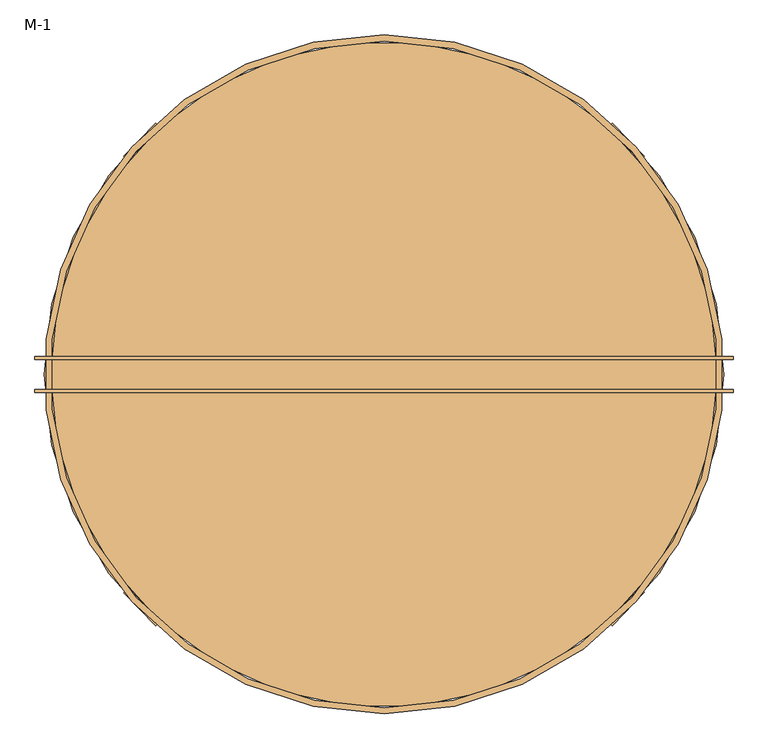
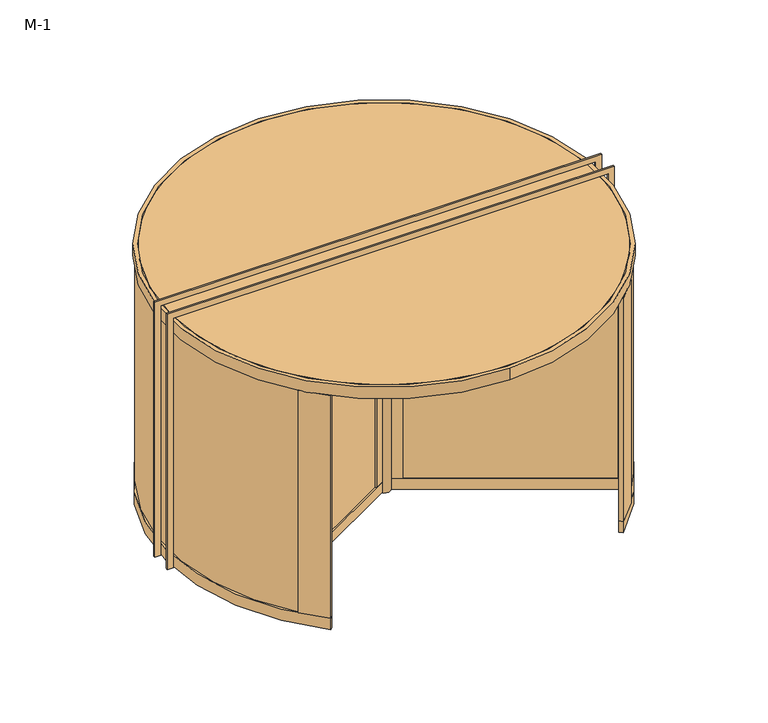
"""IFC4 building model written with IfcOpenShell, lengths in millimetres: door geometry, 旋转门 3 : M-1."""

from ifc_helpers import new_model, si_unit, point, frame, frame_2d, origin, origin_with_axes, origin_2d, place, context, project, spatial, polyline, circle_curve, trimmed, segment, composite_curve, outline, extrude, source, transform, mapped, element, save


def m_1_02a121c7(model_context):
    return source(origin(), model_context, "Body", "SweptSolid", [
        extrude(outline(polyline([(3300.0, -2720.0), (3300.0, 2720.0), (0.0, 2720.0), (0.0, 2795.0), (3375.0, 2795.0), (3375.0, -2795.0), (0.0, -2795.0), (0.0, -2720.0), (3300.0, -2720.0)])), frame((0.0, -145.0, 0.0), z_axis=(0.0, 1.0, 0.0), x_axis=(0.0, 0.0, 1.0)), (0.0, 0.0, 1.0), 25.0),
        extrude(outline(polyline([(3300.0, -2720.0), (3300.0, 2720.0), (0.0, 2720.0), (0.0, 2795.0), (3375.0, 2795.0), (3375.0, -2795.0), (0.0, -2795.0), (0.0, -2720.0), (3300.0, -2720.0)])), frame((0.0, 120.0, 0.0), z_axis=(0.0, 1.0, 0.0), x_axis=(0.0, 0.0, 1.0)), (0.0, 0.0, 1.0), 25.0),
        extrude(outline(composite_curve([segment(trimmed(circle_curve(origin_2d(), 2720.0000021), [point((0.0, -2720.0000021))], [point((0.0, 2720.0000021))], False, "CARTESIAN"), True, "CONTINUOUS"), segment(trimmed(circle_curve(origin_2d(), 2720.0000021), [point((0.0, 2720.0000021))], [point((0.0, -2720.0000021))], False, "CARTESIAN"), True, "CONTINUOUS")], self_intersect=False), holes=[composite_curve([segment(trimmed(circle_curve(origin_2d(), 2669.2000021), [point((0.0, 2669.2000021))], [point((0.0, -2669.2000021))], True, "CARTESIAN"), True, "CONTINUOUS"), segment(trimmed(circle_curve(origin_2d(), 2669.2000021), [point((0.0, -2669.2000021))], [point((0.0, 2669.2000021))], True, "CARTESIAN"), True, "CONTINUOUS")], self_intersect=False)]), frame((0.0, 0.0, 3093.2), z_axis=(0.0, 0.0, 1.0), x_axis=(1.0, 0.0, 0.0)), (0.0, 0.0, 1.0), 150.0),
        extrude(outline(polyline([(174.0798334, -107.8673079), (180.4298334, -96.8687853), (2198.1900323, -1261.8231794), (2191.8400323, -1272.821702), (174.0798334, -107.8673079)])), frame((0.0, 0.0, 150.0), z_axis=(0.0, 0.0, 1.0), x_axis=(1.0, 0.0, 0.0)), (0.0, 0.0, 1.0), 2943.2),
        extrude(outline(polyline([(-6.3759122, 204.691212), (-6.3759122, 2534.6), (6.3240878, 2534.6), (6.3240878, 204.691212), (-6.3759122, 204.691212)])), frame((0.0, 0.0, 150.0), z_axis=(0.0, 0.0, 1.0), x_axis=(1.0, 0.0, 0.0)), (0.0, 0.0, 1.0), 2943.2),
        extrude(outline(polyline([(-174.0798334, -107.8673079), (-2191.8400323, -1272.821702), (-2198.1900323, -1261.8231793), (-180.4298334, -96.8687853), (-174.0798334, -107.8673079)])), frame((0.0, 0.0, 150.0), z_axis=(0.0, 0.0, 1.0), x_axis=(1.0, 0.0, 0.0)), (0.0, 0.0, 1.0), 2943.2),
        extrude(outline(polyline([(2182.5279884, -1288.9506351), (2207.5279884, -1245.6493649), (2311.4510369, -1305.6493649), (2286.4510369, -1348.9506351), (2182.5279884, -1288.9506351)])), frame((0.0, 0.0, 150.0), z_axis=(0.0, 0.0, 1.0), x_axis=(1.0, 0.0, 0.0)), (0.0, 0.0, 1.0), 2943.2),
        extrude(outline(polyline([(58.7955281, -62.2855931), (83.7543721, -19.0556072), (189.9563281, -80.3713351), (164.9974841, -123.601321), (58.7955281, -62.2855931)])), frame((0.0, 0.0, 150.0), z_axis=(0.0, 0.0, 1.0), x_axis=(1.0, 0.0, 0.0)), (0.0, 0.0, 1.0), 2943.2),
        extrude(outline(polyline([(25.0, 2534.6), (-25.0, 2534.6), (-25.0, 2654.6), (25.0, 2654.6), (25.0, 2534.6)])), frame((0.0, 0.0, 150.0), z_axis=(0.0, 0.0, 1.0), x_axis=(1.0, 0.0, 0.0)), (0.0, 0.0, 1.0), 2943.2),
        extrude(outline(polyline([(24.5431418, 82.0612175), (-25.3745461, 82.0612175), (-25.3745461, 204.6926733), (24.5431418, 204.6926733), (24.5431418, 82.0612175)])), frame((0.0, 0.0, 150.0), z_axis=(0.0, 0.0, 1.0), x_axis=(1.0, 0.0, 0.0)), (0.0, 0.0, 1.0), 2943.2),
        extrude(outline(polyline([(-2182.5279884, -1288.9506351), (-2286.4510369, -1348.9506351), (-2311.4510369, -1305.6493649), (-2207.5279884, -1245.6493649), (-2182.5279884, -1288.9506351)])), frame((0.0, 0.0, 150.0), z_axis=(0.0, 0.0, 1.0), x_axis=(1.0, 0.0, 0.0)), (0.0, 0.0, 1.0), 2943.2),
        extrude(outline(polyline([(-58.7955281, -62.2855931), (-164.9974841, -123.601321), (-189.9563281, -80.3713351), (-83.7543721, -19.0556072), (-58.7955281, -62.2855931)])), frame((0.0, 0.0, 150.0), z_axis=(0.0, 0.0, 1.0), x_axis=(1.0, 0.0, 0.0)), (0.0, 0.0, 1.0), 2943.2),
        extrude(outline(polyline([(58.56693, -62.6811463), (83.56693, -19.3798761), (2311.4510369, -1305.6493649), (2286.4510369, -1348.9506351), (58.56693, -62.6811463)])), frame((0.0, 0.0, 3093.2), z_axis=(0.0, 0.0, 1.0), x_axis=(1.0, 0.0, 0.0)), (0.0, 0.0, 1.0), 86.5),
        extrude(outline(polyline([(-25.0, 82.0610223), (-25.0, 2654.6), (25.0, 2654.6), (25.0, 82.0610223), (-25.0, 82.0610223)])), frame((0.0, 0.0, 3093.2), z_axis=(0.0, 0.0, 1.0), x_axis=(1.0, 0.0, 0.0)), (0.0, 0.0, 1.0), 86.5),
        extrude(outline(polyline([(-58.56693, -62.6811463), (-2286.4510369, -1348.9506351), (-2311.4510369, -1305.6493649), (-83.56693, -19.3798761), (-58.56693, -62.6811463)])), frame((0.0, 0.0, 3093.2), z_axis=(0.0, 0.0, 1.0), x_axis=(1.0, 0.0, 0.0)), (0.0, 0.0, 1.0), 86.5),
        extrude(outline(polyline([(58.56693, -62.6811463), (83.56693, -19.3798761), (2311.4510369, -1305.6493649), (2286.4510369, -1348.9506351), (58.56693, -62.6811463)])), frame((0.0, 0.0, 12.7), z_axis=(0.0, 0.0, 1.0), x_axis=(1.0, 0.0, 0.0)), (0.0, 0.0, 1.0), 137.3),
        extrude(outline(polyline([(-25.0, 82.0610223), (-25.0, 2654.6), (25.0, 2654.6), (25.0, 82.0610223), (-25.0, 82.0610223)])), frame((0.0, 0.0, 12.7), z_axis=(0.0, 0.0, 1.0), x_axis=(1.0, 0.0, 0.0)), (0.0, 0.0, 1.0), 137.3),
        extrude(outline(polyline([(-58.56693, -62.6811463), (-2286.4510369, -1348.9506351), (-2311.4510369, -1305.6493649), (-83.56693, -19.3798761), (-58.56693, -62.6811463)])), frame((0.0, 0.0, 12.7), z_axis=(0.0, 0.0, 1.0), x_axis=(1.0, 0.0, 0.0)), (0.0, 0.0, 1.0), 137.3),
        extrude(outline(composite_curve([segment(trimmed(circle_curve(origin_2d(), 76.3647379), [point((-76.3647379, 0.0))], [point((76.3647379, 0.0))], False, "CARTESIAN"), True, "CONTINUOUS"), segment(trimmed(circle_curve(origin_2d(), 76.3647379), [point((76.3647379, 0.0))], [point((-76.3647379, 0.0))], False, "CARTESIAN"), True, "CONTINUOUS")], self_intersect=False), holes=[composite_curve([segment(trimmed(circle_curve(origin_2d(), 65.1966682), [point((-65.1966682, 0.0))], [point((65.1966682, 0.0))], True, "CARTESIAN"), True, "CONTINUOUS"), segment(trimmed(circle_curve(origin_2d(), 65.1966682), [point((65.1966682, 0.0))], [point((-65.1966682, 0.0))], True, "CARTESIAN"), True, "CONTINUOUS")], self_intersect=False)]), origin_with_axes(), (0.0, 0.0, 1.0), 3192.4),
        extrude(outline(composite_curve([segment(polyline([(-1793.7042785, -1976.6774146), (-1827.8433749, -2014.2960549)]), True, "CONTINUOUS"), segment(trimmed(circle_curve(origin_2d(), 2720.0), [point((-1827.8433749, -2014.2960549))], [point((-2083.6408853, -1748.3822983))], False, "CARTESIAN"), True, "CONTINUOUS"), segment(polyline([(-2083.6408853, -1748.3822983), (-2044.7258276, -1715.7286878)]), True, "CONTINUOUS"), segment(trimmed(circle_curve(origin_2d(), 2669.2), [point((-2044.7258276, -1715.7286878))], [point((-1793.7042785, -1976.6774146))], True, "CARTESIAN"), True, "CONTINUOUS")], self_intersect=False)), frame((0.0, 0.0, 150.0), z_axis=(0.0, 0.0, 1.0), x_axis=(1.0, 0.0, 0.0)), (0.0, 0.0, 1.0), 2943.2),
        extrude(outline(composite_curve([segment(trimmed(circle_curve(frame_2d((0.0791205, -0.0760713)), 2669.2), [point((1793.9313547, -1976.6192157))], [point((2045.4154107, -1715.076975))], True, "CARTESIAN"), True, "CONTINUOUS"), segment(polyline([(2045.4154107, -1715.076975), (2084.2580851, -1747.6464845)]), True, "CONTINUOUS"), segment(trimmed(circle_curve(origin_2d(), 2720.0), [point((2084.2580851, -1747.6464845))], [point((1827.996861, -2014.1567655))], False, "CARTESIAN"), True, "CONTINUOUS"), segment(polyline([(1827.996861, -2014.1567655), (1793.9313547, -1976.6192157)]), True, "CONTINUOUS")], self_intersect=False)), frame((0.0, 0.0, 150.0), z_axis=(0.0, 0.0, 1.0), x_axis=(1.0, 0.0, 0.0)), (0.0, 0.0, 1.0), 2943.2),
        extrude(outline(composite_curve([segment(polyline([(1793.9313571, 1976.6192183), (1827.996861, 2014.1567655)]), True, "CONTINUOUS"), segment(trimmed(circle_curve(origin_2d(), 2720.0), [point((1827.996861, 2014.1567655))], [point((2083.6408853, 1748.3822983))], False, "CARTESIAN"), True, "CONTINUOUS"), segment(polyline([(2083.6408853, 1748.3822983), (2044.8097157, 1715.7990783)]), True, "CONTINUOUS"), segment(trimmed(circle_curve(frame_2d((0.0791073, 0.0760881)), 2669.2), [point((2044.8097157, 1715.7990783))], [point((1793.9313571, 1976.6192183))], True, "CARTESIAN"), True, "CONTINUOUS")], self_intersect=False)), frame((0.0, 0.0, 150.0), z_axis=(0.0, 0.0, 1.0), x_axis=(1.0, 0.0, 0.0)), (0.0, 0.0, 1.0), 2943.2),
        extrude(outline(composite_curve([segment(trimmed(circle_curve(origin_2d(), 2669.2), [point((-1793.7042785, 1976.6774146))], [point((-2045.3315003, 1715.0066163))], True, "CARTESIAN"), True, "CONTINUOUS"), segment(polyline([(-2045.3315003, 1715.0066163), (-2084.2580851, 1747.6464845)]), True, "CONTINUOUS"), segment(trimmed(circle_curve(origin_2d(), 2720.0), [point((-2084.2580851, 1747.6464845))], [point((-1827.8433749, 2014.2960549))], False, "CARTESIAN"), True, "CONTINUOUS"), segment(polyline([(-1827.8433749, 2014.2960549), (-1793.7042785, 1976.6774146)]), True, "CONTINUOUS")], self_intersect=False)), frame((0.0, 0.0, 150.0), z_axis=(0.0, 0.0, 1.0), x_axis=(1.0, 0.0, 0.0)), (0.0, 0.0, 1.0), 2943.2),
        extrude(outline(composite_curve([segment(trimmed(circle_curve(origin_2d(), 2669.3647675), [point((-2669.3647675, 0.0))], [point((2669.3647675, 0.0))], False, "CARTESIAN"), True, "CONTINUOUS"), segment(trimmed(circle_curve(origin_2d(), 2669.3647675), [point((2669.3647675, 0.0))], [point((-2669.3647675, 0.0))], False, "CARTESIAN"), True, "CONTINUOUS")], self_intersect=False)), frame((0.0, 0.0, 3192.4), z_axis=(0.0, 0.0, 1.0), x_axis=(1.0, 0.0, 0.0)), (0.0, 0.0, 1.0), 50.8),
        extrude(outline(composite_curve([segment(trimmed(circle_curve(origin_2d(), 2688.6), [point((2060.1971646, -1727.4714479))], [point((2059.5870898, 1728.1987674))], True, "CARTESIAN"), True, "CONTINUOUS"), segment(polyline([(2059.5870898, 1728.1987674), (2068.7796231, 1735.9122187)]), True, "CONTINUOUS"), segment(trimmed(circle_curve(origin_2d(), 2700.6), [point((2068.7796231, 1735.9122187))], [point((2069.3924208, -1735.1816529))], False, "CARTESIAN"), True, "CONTINUOUS"), segment(polyline([(2069.3924208, -1735.1816529), (2060.1971646, -1727.4714479)]), True, "CONTINUOUS")], self_intersect=False)), frame((0.0, 0.0, 150.0), z_axis=(0.0, 0.0, 1.0), x_axis=(1.0, 0.0, 0.0)), (0.0, 0.0, 1.0), 2943.2),
        extrude(outline(composite_curve([segment(trimmed(circle_curve(origin_2d(), 2700.6), [point((-2068.7796231, -1735.9122187))], [point((-2069.3924208, 1735.1816529))], False, "CARTESIAN"), True, "CONTINUOUS"), segment(polyline([(-2069.3924208, 1735.1816529), (-2060.1971646, 1727.4714479)]), True, "CONTINUOUS"), segment(trimmed(circle_curve(origin_2d(), 2688.6), [point((-2060.1971646, 1727.4714479))], [point((-2059.5870898, -1728.1987674))], True, "CARTESIAN"), True, "CONTINUOUS"), segment(polyline([(-2059.5870898, -1728.1987674), (-2068.7796231, -1735.9122187)]), True, "CONTINUOUS")], self_intersect=False)), frame((0.0, 0.0, 150.0), z_axis=(0.0, 0.0, 1.0), x_axis=(1.0, 0.0, 0.0)), (0.0, 0.0, 1.0), 2943.2),
        extrude(outline(composite_curve([segment(trimmed(circle_curve(origin_2d(), 2669.2), [point((1793.8570413, -1976.5387817))], [point((1793.8570413, 1976.5387817))], True, "CARTESIAN"), True, "CONTINUOUS"), segment(polyline([(1793.8570413, 1976.5387817), (1827.9975844, 2014.156109)]), True, "CONTINUOUS"), segment(trimmed(circle_curve(origin_2d(), 2720.0), [point((1827.9975844, 2014.156109))], [point((1827.9975844, -2014.156109))], False, "CARTESIAN"), True, "CONTINUOUS"), segment(polyline([(1827.9975844, -2014.156109), (1793.8570413, -1976.5387817)]), True, "CONTINUOUS")], self_intersect=False)), origin_with_axes(), (0.0, 0.0, 1.0), 150.0),
        extrude(outline(composite_curve([segment(trimmed(circle_curve(origin_2d(), 2720.0), [point((-1827.8426515, -2014.2967114))], [point((-1827.8426515, 2014.2967114))], False, "CARTESIAN"), True, "CONTINUOUS"), segment(polyline([(-1827.8426515, 2014.2967114), (-1793.7050019, 1976.6767581)]), True, "CONTINUOUS"), segment(trimmed(circle_curve(origin_2d(), 2669.2), [point((-1793.7050019, 1976.6767581))], [point((-1793.7050019, -1976.6767581))], True, "CARTESIAN"), True, "CONTINUOUS"), segment(polyline([(-1793.7050019, -1976.6767581), (-1827.8426515, -2014.2967114)]), True, "CONTINUOUS")], self_intersect=False)), origin_with_axes(), (0.0, 0.0, 1.0), 150.0),
    ])


if __name__ == "__main__":
    model = new_model("IFC4")
    model_context = context("Model", 3, world=origin())
    ifc_project = project(units=[si_unit("LENGTHUNIT", "METRE", prefix="MILLI")], contexts=[model_context])
    site = spatial("IfcSite", under=ifc_project)
    building = spatial("IfcBuilding", under=site)
    placement = place(None, origin())
    m_1_shape = m_1_02a121c7(model_context)
    element("IfcDoor", 1, ObjectType="旋转门 3 : M-1", at=placement, inside=building, context=model_context, shape_type="MappedRepresentation", body=[
        mapped(m_1_shape, transform((0.0, 0.0, 0.0), x_axis=(1.0, 0.0, 0.0), y_axis=(0.0, 1.0, 0.0), z_axis=(0.0, 0.0, 1.0))),
    ])
    save(model, "model.ifc")
